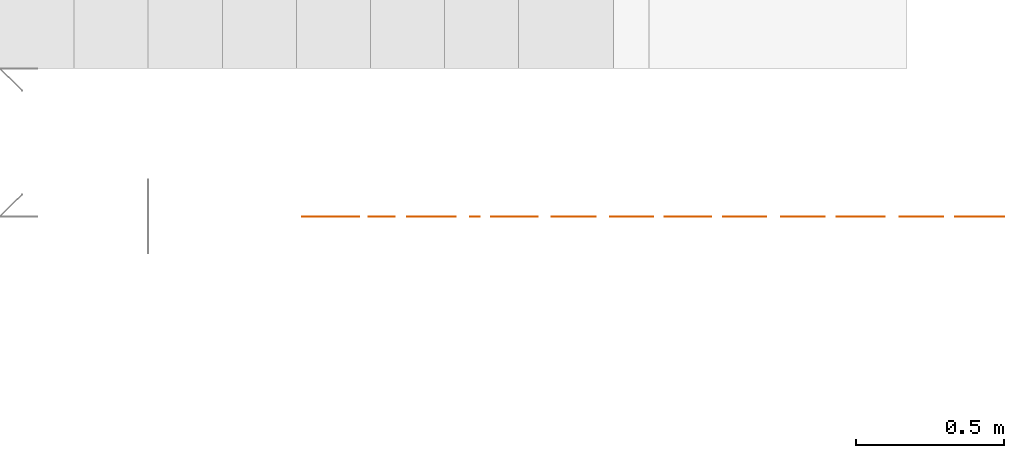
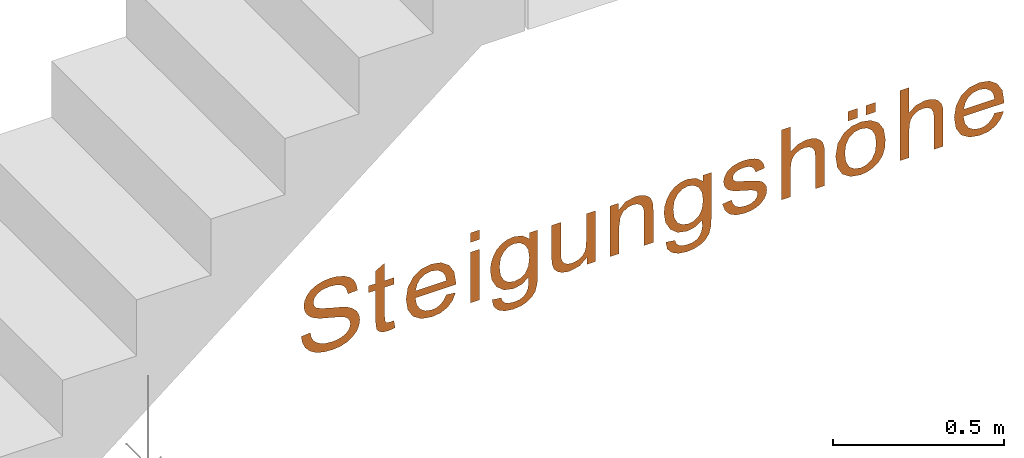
# One storey, part 5 of 5: 1 proxy, 1 element without a shape of its own.
"""IFC4 building model written with IfcOpenShell, lengths in metres."""

import ifcopenshell
import ifcopenshell.guid

model = None  # the IFC model being written
_history = None  # IfcOwnerHistory: only IFC2X3 demands one
_inside = {}  # id of a spatial element -> (the spatial element, [elements in it])
_under = {}  # id of a project, library or spatial element -> (it, [spatial elements below it])
_declared = {}  # id of a project -> (the project, [libraries it declares])
_typed = {}  # id of a type object -> (the type object, [elements of that type])
_made_of = {}  # id of a material, layer set ... -> (it, [elements and type objects made of it])


def new_model(schema):
    """Start an empty IFC model of exactly this schema.

    Asked for "IFC4X3", IfcOpenShell would pick the latest addendum, in which some entities
    have other attributes; the version numbers below select the first issue.
    IFC2X3 requires an IfcOwnerHistory on every rooted entity: one is made here for all.
    """
    global model, _history
    if schema == "IFC4X3":
        model = ifcopenshell.file(schema_version=(4, 3, 0, 0))
    else:
        model = ifcopenshell.file(schema=schema)
    _inside.clear()
    _under.clear()
    _declared.clear()
    _typed.clear()
    _made_of.clear()
    _history = None
    if model.schema == "IFC2X3":
        org = make("IfcOrganization", Name="unknown")
        user = make(
            "IfcPersonAndOrganization",
            ThePerson=make("IfcPerson", FamilyName="unknown"),
            TheOrganization=org,
        )
        app = make(
            "IfcApplication",
            ApplicationDeveloper=org,
            Version="unknown",
            ApplicationFullName="unknown",
            ApplicationIdentifier="unknown",
        )
        _history = make(
            "IfcOwnerHistory",
            OwningUser=user,
            OwningApplication=app,
            ChangeAction="ADDED",
            CreationDate=0,
        )
    return model


def make(cls, **values):
    """One entity of the class cls with the attributes given. An attribute that is None is left unset."""
    return model.create_entity(
        cls, **{name: value for name, value in values.items() if value is not None}
    )


def entity(cls, *values):
    """Any entity or typed value of the class cls, its attributes in the order of the schema. None: left unset."""
    e = model.create_entity(cls)
    for i, value in enumerate(values):
        if value is not None:
            e[i] = value
    return e


def rooted(cls, **values):
    """An entity with a GlobalId (a new one), such as an element, a storey or a relation."""
    return make(cls, GlobalId=ifcopenshell.guid.new(), OwnerHistory=_history, **values)


def si_unit(unit_type, name, prefix=None):
    """IfcSIUnit, for example si_unit("LENGTHUNIT", "METRE", prefix="MILLI")."""
    return make("IfcSIUnit", UnitType=unit_type, Prefix=prefix, Name=name)


def converted_unit(unit_type, name, factor, base, dimensions=None, offset=None):
    """IfcConversionBasedUnit, such as the inch: factor (a typed value) times the base unit."""
    return make(
        "IfcConversionBasedUnit"
        if offset is None
        else "IfcConversionBasedUnitWithOffset",
        ConversionOffset=offset,
        Dimensions=None
        if dimensions is None
        else entity("IfcDimensionalExponents", *dimensions),
        UnitType=unit_type,
        Name=name,
        ConversionFactor=make(
            "IfcMeasureWithUnit", ValueComponent=factor, UnitComponent=base
        ),
    )


def derived_unit(unit_type, elements):
    """IfcDerivedUnit: a product of units, each with its exponent."""
    return make(
        "IfcDerivedUnit",
        Elements=[
            make("IfcDerivedUnitElement", Unit=unit, Exponent=power)
            for unit, power in elements
        ],
        UnitType=unit_type,
    )


def assignment(units):
    """IfcUnitAssignment: the units of a project."""
    return None if units is None else make("IfcUnitAssignment", Units=units)


def point(xyz):
    """IfcCartesianPoint."""
    return None if xyz is None else make("IfcCartesianPoint", Coordinates=xyz)


def direction(xyz):
    """IfcDirection."""
    return None if xyz is None else make("IfcDirection", DirectionRatios=xyz)


def frame(location, z_axis=None, x_axis=None):
    """IfcAxis2Placement3D, a coordinate frame: its origin and axes. An axis left out is left unset."""
    return make(
        "IfcAxis2Placement3D",
        Location=point(location),
        Axis=direction(z_axis),
        RefDirection=direction(x_axis),
    )


def origin():
    """The frame at (0, 0, 0) with its axes left unset."""
    return frame((0.0, 0.0, 0.0))


def origin_with_axes():
    """The frame at (0, 0, 0) with the z axis (0, 0, 1) and the x axis (1, 0, 0) written out."""
    return frame((0.0, 0.0, 0.0), z_axis=(0.0, 0.0, 1.0), x_axis=(1.0, 0.0, 0.0))


def place(relative_to, where):
    """IfcLocalPlacement: puts the frame where relative to a parent placement (None: the world)."""
    return make(
        "IfcLocalPlacement", PlacementRelTo=relative_to, RelativePlacement=where
    )


def context(
    kind, dimensions, precision=None, world=None, true_north=None, identifier=None
):
    """IfcGeometricRepresentationContext, for example the 3D "Model" context."""
    return make(
        "IfcGeometricRepresentationContext",
        ContextIdentifier=identifier,
        ContextType=kind,
        CoordinateSpaceDimension=dimensions,
        Precision=precision,
        WorldCoordinateSystem=world,
        TrueNorth=true_north,
    )


def subcontext(parent, identifier, kind, view, scale=None):
    """IfcGeometricRepresentationSubContext, for example "Body" below "Model"."""
    return make(
        "IfcGeometricRepresentationSubContext",
        ContextIdentifier=identifier,
        ContextType=kind,
        ParentContext=parent,
        TargetScale=scale,
        TargetView=view,
    )


def project(units=None, contexts=None):
    """IfcProject with its units and contexts."""
    return rooted(
        "IfcProject",
        Name="project",
        RepresentationContexts=contexts,
        UnitsInContext=assignment(units),
    )


def spatial(cls, under=None, at=None, **own):
    """A site, building, storey or space (cls), placed at a placement, below another one or the project."""
    s = rooted(cls, ObjectPlacement=at, **own)
    if under is not None:
        _under.setdefault(under.id(), (under, []))[1].append(s)
    return s


def faces_of(points, faces, orient=None, outer=None):
    """IfcFace entities. A face is a list of loops; a loop is a list of indices into points, from 0.

    orient and outer hold one flag for each loop. By default every Orientation is true, the
    first loop of a face is its IfcFaceOuterBound and the others are IfcFaceBound.
    """
    made = []
    for i, loops in enumerate(faces):
        bounds = []
        for j, loop in enumerate(loops):
            is_outer = j == 0 if outer is None else outer[i][j]
            bounds.append(
                make(
                    "IfcFaceOuterBound" if is_outer else "IfcFaceBound",
                    Bound=make("IfcPolyLoop", Polygon=[points[k] for k in loop]),
                    Orientation=True if orient is None else orient[i][j],
                )
            )
        made.append(make("IfcFace", Bounds=bounds))
    return made


def open_shell(faces, orient=None, outer=None):
    """The faces of one IfcOpenShell. surface_model builds it on its shared points."""
    return ("IfcOpenShell", faces, orient, outer)


def surface_model(cls, points, shells):
    """IfcFaceBasedSurfaceModel or IfcShellBasedSurfaceModel (cls): surfaces that need not close."""
    shared = [point(p) for p in points]
    made = [make(c, CfsFaces=faces_of(shared, fs, o, b)) for c, fs, o, b in shells]
    if cls == "IfcFaceBasedSurfaceModel":
        return make(cls, FbsmFaces=made)
    return make(cls, SbsmBoundary=made)


def shape(context_of_items, identifier, shape_type, items):
    """IfcShapeRepresentation: the items that make up one representation, for example the "Body"."""
    return make(
        "IfcShapeRepresentation",
        ContextOfItems=context_of_items,
        RepresentationIdentifier=identifier,
        RepresentationType=shape_type,
        Items=items,
    )


def source(mapping_origin, context_of_items, identifier, shape_type, items):
    """IfcRepresentationMap: a shape defined once, which mapped items show again and again."""
    return make(
        "IfcRepresentationMap",
        MappingOrigin=mapping_origin,
        MappedRepresentation=shape(context_of_items, identifier, shape_type, items),
    )


def transform(
    local_origin,
    x_axis=None,
    y_axis=None,
    z_axis=None,
    scale=None,
    scale2=None,
    scale3=None,
    uniform=True,
):
    """IfcCartesianTransformationOperator3D, or its non-uniform kind. x_axis, y_axis, z_axis: its Axis1, 2, 3."""
    if uniform:
        return make(
            "IfcCartesianTransformationOperator3D",
            Axis1=direction(x_axis),
            Axis2=direction(y_axis),
            LocalOrigin=point(local_origin),
            Scale=scale,
            Axis3=direction(z_axis),
        )
    return make(
        "IfcCartesianTransformationOperator3DnonUniform",
        Axis1=direction(x_axis),
        Axis2=direction(y_axis),
        LocalOrigin=point(local_origin),
        Scale=scale,
        Axis3=direction(z_axis),
        Scale2=scale2,
        Scale3=scale3,
    )


def mapped(mapping_source, mapping_target):
    """IfcMappedItem: shows the shape of a source again, moved by a transform."""
    return make(
        "IfcMappedItem", MappingSource=mapping_source, MappingTarget=mapping_target
    )


def made_of(thing, what):
    """Note that an element or type object is made of a material, layer set ...; save() writes the relation."""
    if what is not None:
        _made_of.setdefault(what.id(), (what, []))[1].append(thing)
    return thing


def element(
    cls,
    number,
    at=None,
    inside=None,
    cuts=None,
    type_object=None,
    material=None,
    context=None,
    identifier="Body",
    shape_type=None,
    held_by="IfcProductDefinitionShape",
    body=None,
    shapes=None,
    **own,
):
    """One element of the class cls, such as IfcWall. Its Tag is "e" and its number.

    at: its placement. inside: the storey or other place that contains it. cuts: it is an
    opening in that element (IfcRelVoidsElement). A single representation is given by context,
    identifier, shape_type and body (its items); several are given by shapes. held_by: the class
    of the entity that holds the representations. save() writes the other relations.
    """
    e = rooted(cls, Tag="e%d" % number, ObjectPlacement=at, **own)
    if body is not None:
        shapes = [shape(context, identifier, shape_type, body)]
    if shapes is not None:
        e.Representation = make(held_by, Representations=shapes)
    if inside is not None:
        _inside.setdefault(inside.id(), (inside, []))[1].append(e)
    if cuts is not None:
        rooted(
            "IfcRelVoidsElement", RelatingBuildingElement=cuts, RelatedOpeningElement=e
        )
    if type_object is not None:
        _typed.setdefault(type_object.id(), (type_object, []))[1].append(e)
    return made_of(e, material)


def aggregate(whole, parts):
    """IfcRelAggregates: a whole, such as a stair, and the parts it consists of."""
    return rooted("IfcRelAggregates", RelatingObject=whole, RelatedObjects=parts)


def save(model, path):
    """Write the relations noted so far, then the file.

    IfcRelAggregates (storeys below a building ...), IfcRelContainedInSpatialStructure (elements
    in a storey), IfcRelDefinesByType, IfcRelAssociatesMaterial and IfcRelDeclares: one each for
    every whole, place, type object, material and project.
    """
    for whole, parts in _under.values():
        aggregate(whole, parts)
    for where, things in _inside.values():
        rooted(
            "IfcRelContainedInSpatialStructure",
            RelatedElements=things,
            RelatingStructure=where,
        )
    for kind, things in _typed.values():
        rooted("IfcRelDefinesByType", RelatedObjects=things, RelatingType=kind)
    for what, things in _made_of.values():
        rooted("IfcRelAssociatesMaterial", RelatedObjects=things, RelatingMaterial=what)
    for by, libraries in _declared.values():
        rooted("IfcRelDeclares", RelatingContext=by, RelatedDefinitions=libraries)
    model.write(path)


model = new_model("IFC4")

# Units and contexts
model_context = context("Model", 3, precision=1e-05, world=origin())
body_context = subcontext(model_context, "Body", "Model", "MODEL_VIEW")
ifc_project = project(units=[si_unit("LENGTHUNIT", "METRE"), si_unit("AREAUNIT", "SQUARE_METRE"), si_unit("VOLUMEUNIT", "CUBIC_METRE"), si_unit("MASSUNIT", "GRAM", prefix="KILO"), converted_unit("PLANEANGLEUNIT", "DEGREE", entity("IfcPlaneAngleMeasure", 0.0174532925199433), si_unit("PLANEANGLEUNIT", "RADIAN"), dimensions=[0, 0, 0, 0, 0, 0, 0]), derived_unit("THERMALTRANSMITTANCEUNIT", [(si_unit("POWERUNIT", "WATT"), 1), (si_unit("THERMODYNAMICTEMPERATUREUNIT", "KELVIN"), -1), (si_unit("LENGTHUNIT", "METRE"), -2)]), derived_unit("VOLUMETRICFLOWRATEUNIT", [(si_unit("LENGTHUNIT", "METRE"), 3), (converted_unit("TIMEUNIT", "hour", entity("IfcTimeMeasure", 3600.0), si_unit("TIMEUNIT", "SECOND"), dimensions=[0, 0, 1, 0, 0, 0, 0]), -1), (si_unit("LENGTHUNIT", "METRE"), -1)])], contexts=[model_context])

# Site, building, storey
site_placement = place(None, origin())
site = spatial("IfcSite", under=ifc_project, at=site_placement, Name="Liegenschaft", CompositionType="ELEMENT")
building_placement = place(site_placement, origin())
building = spatial("IfcBuilding", under=site, at=building_placement, Name="Gebäude", CompositionType="ELEMENT")
storey_placement = place(building_placement, origin())
storey = spatial("IfcBuildingStorey", under=building, at=storey_placement, Name="Geschoss 02", CompositionType="ELEMENT", Elevation=0.0)

# Assembly, proxy
assembly_placement = place(storey_placement, origin())
assembly = element("IfcElementAssembly", 1, at=assembly_placement, inside=storey, Name="SpatialDim_Group", PredefinedType="NOTDEFINED")
shared_shape = source(origin_with_axes(), body_context, "Body", "SurfaceModel", [
    surface_model("IfcShellBasedSurfaceModel", [(0.378675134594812, 2.371, 0.0), (0.354675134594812, 2.366625, 0.0), (0.333675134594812, 2.357, 0.0), (0.316550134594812, 2.341375, 0.0), (0.304675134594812, 2.322, 0.0), (0.297050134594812, 2.29575, 0.0), (0.294675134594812, 2.265, 0.0), (0.297425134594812, 2.2395, 0.0), (0.304675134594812, 2.217, 0.0), (0.316675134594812, 2.19825, 0.0), (0.331675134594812, 2.184, 0.0), (0.350300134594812, 2.1755, 0.0), (0.369675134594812, 2.173, 0.0), (0.388675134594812, 2.175875, 0.0), (0.404675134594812, 2.184, 0.0), (0.418675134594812, 2.197375, 0.0), (0.429675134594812, 2.216, 0.0), (0.437300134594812, 2.2375, 0.0), (0.445675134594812, 2.271, 0.0), (0.455425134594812, 2.303375, 0.0), (0.463675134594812, 2.32, 0.0), (0.473925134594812, 2.327625, 0.0), (0.485675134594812, 2.33, 0.0), (0.500675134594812, 2.326375, 0.0), (0.512675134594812, 2.316, 0.0), (0.521175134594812, 2.298625, 0.0), (0.523675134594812, 2.273, 0.0), (0.520675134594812, 2.248125, 0.0), (0.511675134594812, 2.23, 0.0), (0.496675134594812, 2.2185, 0.0), (0.475675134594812, 2.213, 0.0), (0.477675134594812, 2.181, 0.0), (0.498800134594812, 2.18475, 0.0), (0.517675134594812, 2.193, 0.0), (0.532925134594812, 2.20725, 0.0), (0.543675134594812, 2.226, 0.0), (0.550425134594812, 2.2485, 0.0), (0.552675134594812, 2.274, 0.0), (0.550425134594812, 2.298875, 0.0), (0.543675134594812, 2.32, 0.0), (0.533050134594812, 2.3385, 0.0), (0.518675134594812, 2.351, 0.0), (0.501550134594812, 2.3595, 0.0), (0.483675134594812, 2.362, 0.0), (0.467050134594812, 2.35975, 0.0), (0.452675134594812, 2.353, 0.0), (0.439675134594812, 2.341875, 0.0), (0.429675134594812, 2.327, 0.0), (0.421300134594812, 2.3075, 0.0), (0.413675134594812, 2.279, 0.0), (0.406175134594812, 2.250625, 0.0), (0.401675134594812, 2.235, 0.0), (0.394925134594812, 2.220875, 0.0), (0.386675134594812, 2.212, 0.0), (0.377050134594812, 2.206625, 0.0), (0.366675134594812, 2.205, 0.0), (0.354925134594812, 2.207, 0.0), (0.344675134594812, 2.212, 0.0), (0.335675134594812, 2.221, 0.0), (0.329675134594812, 2.233, 0.0), (0.325175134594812, 2.24925, 0.0), (0.323675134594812, 2.267, 0.0), (0.325675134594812, 2.287125, 0.0), (0.330675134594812, 2.305, 0.0), (0.339925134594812, 2.320125, 0.0), (0.350675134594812, 2.33, 0.0), (0.364675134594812, 2.336875, 0.0), (0.381675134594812, 2.34, 0.0)], [open_shell([[[0, 1, 2, 3, 4, 5, 6, 7, 8, 9, 10, 11, 12, 13, 14, 15, 16, 17, 18, 19, 20, 21, 22, 23, 24, 25, 26, 27, 28, 29, 30, 31, 32, 33, 34, 35, 36, 37, 38, 39, 40, 41, 42, 43, 44, 45, 46, 47, 48, 49, 50, 51, 52, 53, 54, 55, 56, 57, 58, 59, 60, 61, 62, 63, 64, 65, 66, 67]]], orient=[[False]])]),
    surface_model("IfcShellBasedSurfaceModel", [(0.326675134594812, 2.058, 0.0), (0.325800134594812, 2.06575, 0.0), (0.325675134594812, 2.072, 0.0), (0.326300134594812, 2.07775, 0.0), (0.327675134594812, 2.082, 0.0), (0.330675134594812, 2.085625, 0.0), (0.333675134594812, 2.087, 0.0), (0.340300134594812, 2.08875, 0.0), (0.350675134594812, 2.089, 0.0), (0.455675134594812, 2.089, 0.0), (0.455675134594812, 2.058, 0.0), (0.479675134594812, 2.058, 0.0), (0.479675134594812, 2.089, 0.0), (0.542675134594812, 2.089, 0.0), (0.524675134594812, 2.12, 0.0), (0.479675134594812, 2.12, 0.0), (0.479675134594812, 2.143, 0.0), (0.455675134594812, 2.143, 0.0), (0.455675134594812, 2.12, 0.0), (0.351675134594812, 2.12, 0.0), (0.329175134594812, 2.11875, 0.0), (0.315675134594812, 2.116, 0.0), (0.307925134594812, 2.110625, 0.0), (0.301675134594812, 2.103, 0.0), (0.297675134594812, 2.091875, 0.0), (0.296675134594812, 2.077, 0.0), (0.297425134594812, 2.065875, 0.0), (0.299675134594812, 2.054, 0.0)], [open_shell([[[0, 1, 2, 3, 4, 5, 6, 7, 8, 9, 10, 11, 12, 13, 14, 15, 16, 17, 18, 19, 20, 21, 22, 23, 24, 25, 26, 27]]], orient=[[False]])]),
    surface_model("IfcShellBasedSurfaceModel", [(0.356675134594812, 1.881, 0.0), (0.340050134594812, 1.889875, 0.0), (0.328675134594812, 1.901, 0.0), (0.321925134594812, 1.914375, 0.0), (0.319675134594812, 1.93, 0.0), (0.323925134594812, 1.95175, 0.0), (0.335675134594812, 1.969, 0.0), (0.355300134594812, 1.980875, 0.0), (0.381675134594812, 1.986, 0.0), (0.381675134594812, 1.849, 0.0), (0.386425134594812, 1.849, 0.0), (0.389675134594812, 1.849, 0.0), (0.429425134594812, 1.854875, 0.0), (0.458675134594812, 1.872, 0.0), (0.477550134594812, 1.899, 0.0), (0.483675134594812, 1.932, 0.0), (0.477175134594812, 1.966625, 0.0), (0.458675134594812, 1.993, 0.0), (0.428050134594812, 2.011, 0.0), (0.387675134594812, 2.017, 0.0), (0.347925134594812, 2.011125, 0.0), (0.318675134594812, 1.994, 0.0), (0.300675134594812, 1.96575, 0.0), (0.294675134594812, 1.93, 0.0), (0.298425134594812, 1.900625, 0.0), (0.309675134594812, 1.878, 0.0), (0.328175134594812, 1.860625, 0.0), (0.352675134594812, 1.85, 0.0), (0.426300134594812, 1.88475, 0.0), (0.406675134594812, 1.881, 0.0), (0.406675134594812, 1.985, 0.0), (0.428300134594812, 1.979625, 0.0), (0.444675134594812, 1.969, 0.0), (0.455425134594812, 1.952, 0.0), (0.458675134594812, 1.932, 0.0), (0.454175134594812, 1.91025, 0.0), (0.440675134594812, 1.893, 0.0)], [open_shell([[[0, 1, 2, 3, 4, 5, 6, 7, 8, 9, 10, 11, 12, 13, 14, 15, 16, 17, 18, 19, 20, 21, 22, 23, 24, 25, 26, 27], [28, 29, 30, 31, 32, 33, 34, 35, 36]]], orient=[[False, False]])]),
    surface_model("IfcShellBasedSurfaceModel", [(0.298675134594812, 1.8, 0.0), (0.298675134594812, 1.769, 0.0), (0.479675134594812, 1.769, 0.0), (0.479675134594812, 1.8, 0.0), (0.514675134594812, 1.8, 0.0), (0.514675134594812, 1.769, 0.0), (0.548675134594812, 1.769, 0.0), (0.548675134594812, 1.8, 0.0)], [open_shell([[[0, 1, 2, 3]], [[4, 5, 6, 7]]], orient=[[False], [False]])]),
    surface_model("IfcShellBasedSurfaceModel", [(0.284675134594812, 1.727, 0.0), (0.258550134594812, 1.721875, 0.0), (0.240675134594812, 1.707, 0.0), (0.229425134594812, 1.683625, 0.0), (0.225675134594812, 1.655, 0.0), (0.228425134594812, 1.629375, 0.0), (0.235675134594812, 1.609, 0.0), (0.247800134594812, 1.592375, 0.0), (0.263675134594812, 1.581, 0.0), (0.287675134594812, 1.57475, 0.0), (0.323675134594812, 1.573, 0.0), (0.479675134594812, 1.573, 0.0), (0.479675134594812, 1.601, 0.0), (0.457675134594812, 1.601, 0.0), (0.477425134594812, 1.624875, 0.0), (0.483675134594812, 1.654, 0.0), (0.480675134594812, 1.6765, 0.0), (0.471675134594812, 1.696, 0.0), (0.456925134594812, 1.71175, 0.0), (0.437675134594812, 1.723, 0.0), (0.414425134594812, 1.730625, 0.0), (0.389675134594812, 1.733, 0.0), (0.355050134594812, 1.72775, 0.0), (0.325675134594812, 1.712, 0.0), (0.305425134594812, 1.687125, 0.0), (0.298675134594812, 1.654, 0.0), (0.304550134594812, 1.626375, 0.0), (0.321675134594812, 1.604, 0.0), (0.296925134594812, 1.603875, 0.0), (0.282675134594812, 1.606, 0.0), (0.269175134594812, 1.612, 0.0), (0.258675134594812, 1.621, 0.0), (0.252425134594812, 1.63525, 0.0), (0.250675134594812, 1.654, 0.0), (0.252925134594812, 1.672125, 0.0), (0.259675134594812, 1.685, 0.0), (0.268675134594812, 1.692375, 0.0), (0.280675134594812, 1.696, 0.0), (0.361675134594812, 1.69825, 0.0), (0.392675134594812, 1.702, 0.0), (0.421675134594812, 1.69825, 0.0), (0.441675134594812, 1.687, 0.0), (0.454675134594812, 1.671, 0.0), (0.458675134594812, 1.652, 0.0), (0.454300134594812, 1.6325, 0.0), (0.441675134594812, 1.616, 0.0), (0.420425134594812, 1.60475, 0.0), (0.391675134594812, 1.601, 0.0), (0.360800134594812, 1.604625, 0.0), (0.339675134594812, 1.615, 0.0), (0.327550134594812, 1.6315, 0.0), (0.323675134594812, 1.651, 0.0), (0.327925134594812, 1.67125, 0.0), (0.339675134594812, 1.687, 0.0)], [open_shell([[[0, 1, 2, 3, 4, 5, 6, 7, 8, 9, 10, 11, 12, 13, 14, 15, 16, 17, 18, 19, 20, 21, 22, 23, 24, 25, 26, 27, 28, 29, 30, 31, 32, 33, 34, 35, 36, 37], [38, 39, 40, 41, 42, 43, 44, 45, 46, 47, 48, 49, 50, 51, 52, 53]]], orient=[[False, False]])]),
    surface_model("IfcShellBasedSurfaceModel", [(0.298675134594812, 1.406, 0.0), (0.298675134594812, 1.378, 0.0), (0.479675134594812, 1.378, 0.0), (0.479675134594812, 1.409, 0.0), (0.382675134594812, 1.409, 0.0), (0.361675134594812, 1.410375, 0.0), (0.346675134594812, 1.414, 0.0), (0.335675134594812, 1.421, 0.0), (0.327675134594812, 1.431, 0.0), (0.322300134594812, 1.443625, 0.0), (0.320675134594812, 1.457, 0.0), (0.322675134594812, 1.4705, 0.0), (0.327675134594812, 1.481, 0.0), (0.336050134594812, 1.4885, 0.0), (0.346675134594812, 1.493, 0.0), (0.358925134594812, 1.49475, 0.0), (0.378675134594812, 1.495, 0.0), (0.479675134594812, 1.495, 0.0), (0.479675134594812, 1.526, 0.0), (0.367675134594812, 1.526, 0.0), (0.350175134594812, 1.525375, 0.0), (0.338675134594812, 1.524, 0.0), (0.326550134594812, 1.52025, 0.0), (0.316675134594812, 1.515, 0.0), (0.307550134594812, 1.506, 0.0), (0.300675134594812, 1.494, 0.0), (0.296175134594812, 1.479, 0.0), (0.294675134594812, 1.464, 0.0), (0.302175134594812, 1.430875, 0.0), (0.324675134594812, 1.406, 0.0)], [open_shell([[[0, 1, 2, 3, 4, 5, 6, 7, 8, 9, 10, 11, 12, 13, 14, 15, 16, 17, 18, 19, 20, 21, 22, 23, 24, 25, 26, 27, 28, 29]]], orient=[[False]])]),
    surface_model("IfcShellBasedSurfaceModel", [(0.298675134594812, 1.329, 0.0), (0.298675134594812, 1.298, 0.0), (0.397675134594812, 1.298, 0.0), (0.426800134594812, 1.294375, 0.0), (0.444675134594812, 1.284, 0.0), (0.453675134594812, 1.26825, 0.0), (0.456675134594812, 1.251, 0.0), (0.455175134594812, 1.23975, 0.0), (0.450675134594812, 1.23, 0.0), (0.444425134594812, 1.2225, 0.0), (0.436675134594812, 1.218, 0.0), (0.424550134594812, 1.214875, 0.0), (0.408675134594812, 1.214, 0.0), (0.298675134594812, 1.214, 0.0), (0.298675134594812, 1.183, 0.0), (0.409675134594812, 1.183, 0.0), (0.428425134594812, 1.183625, 0.0), (0.439675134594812, 1.185, 0.0), (0.452300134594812, 1.18875, 0.0), (0.462675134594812, 1.194, 0.0), (0.470925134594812, 1.202875, 0.0), (0.477675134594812, 1.214, 0.0), (0.482175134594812, 1.229, 0.0), (0.483675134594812, 1.244, 0.0), (0.476175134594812, 1.277, 0.0), (0.453675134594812, 1.301, 0.0), (0.479675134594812, 1.301, 0.0), (0.479675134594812, 1.329, 0.0)], [open_shell([[[0, 1, 2, 3, 4, 5, 6, 7, 8, 9, 10, 11, 12, 13, 14, 15, 16, 17, 18, 19, 20, 21, 22, 23, 24, 25, 26, 27]]], orient=[[False]])]),
    surface_model("IfcShellBasedSurfaceModel", [(0.284675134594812, 1.141, 0.0), (0.258550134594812, 1.135875, 0.0), (0.240675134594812, 1.121, 0.0), (0.229425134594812, 1.097625, 0.0), (0.225675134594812, 1.069, 0.0), (0.228425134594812, 1.043375, 0.0), (0.235675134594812, 1.023, 0.0), (0.247800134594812, 1.006375, 0.0), (0.263675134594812, 0.995, 0.0), (0.287675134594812, 0.98875, 0.0), (0.323675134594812, 0.987, 0.0), (0.479675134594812, 0.987, 0.0), (0.479675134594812, 1.015, 0.0), (0.457675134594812, 1.015, 0.0), (0.477425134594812, 1.038875, 0.0), (0.483675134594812, 1.068, 0.0), (0.480675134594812, 1.0905, 0.0), (0.471675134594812, 1.11, 0.0), (0.456925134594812, 1.12575, 0.0), (0.437675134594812, 1.137, 0.0), (0.414425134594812, 1.144625, 0.0), (0.389675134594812, 1.147, 0.0), (0.355050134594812, 1.14175, 0.0), (0.325675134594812, 1.126, 0.0), (0.305425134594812, 1.101125, 0.0), (0.298675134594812, 1.068, 0.0), (0.304550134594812, 1.040375, 0.0), (0.321675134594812, 1.018, 0.0), (0.296925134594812, 1.017875, 0.0), (0.282675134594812, 1.02, 0.0), (0.269175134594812, 1.026, 0.0), (0.258675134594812, 1.035, 0.0), (0.252425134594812, 1.04925, 0.0), (0.250675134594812, 1.068, 0.0), (0.252925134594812, 1.086125, 0.0), (0.259675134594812, 1.099, 0.0), (0.268675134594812, 1.106375, 0.0), (0.280675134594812, 1.11, 0.0), (0.361675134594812, 1.11225, 0.0), (0.392675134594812, 1.116, 0.0), (0.421675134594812, 1.11225, 0.0), (0.441675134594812, 1.101, 0.0), (0.454675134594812, 1.085, 0.0), (0.458675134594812, 1.066, 0.0), (0.454300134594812, 1.0465, 0.0), (0.441675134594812, 1.03, 0.0), (0.420425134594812, 1.01875, 0.0), (0.391675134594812, 1.015, 0.0), (0.360800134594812, 1.018625, 0.0), (0.339675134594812, 1.029, 0.0), (0.327550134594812, 1.0455, 0.0), (0.323675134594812, 1.065, 0.0), (0.327925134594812, 1.08525, 0.0), (0.339675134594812, 1.101, 0.0)], [open_shell([[[0, 1, 2, 3, 4, 5, 6, 7, 8, 9, 10, 11, 12, 13, 14, 15, 16, 17, 18, 19, 20, 21, 22, 23, 24, 25, 26, 27, 28, 29, 30, 31, 32, 33, 34, 35, 36, 37], [38, 39, 40, 41, 42, 43, 44, 45, 46, 47, 48, 49, 50, 51, 52, 53]]], orient=[[False, False]])]),
    surface_model("IfcShellBasedSurfaceModel", [(0.353675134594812, 0.95, 0.0), (0.327925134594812, 0.941, 0.0), (0.309675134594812, 0.926, 0.0), (0.298425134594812, 0.903625, 0.0), (0.294675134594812, 0.873, 0.0), (0.296675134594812, 0.852875, 0.0), (0.301675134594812, 0.835, 0.0), (0.311425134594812, 0.81975, 0.0), (0.322675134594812, 0.809, 0.0), (0.337175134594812, 0.80225, 0.0), (0.351675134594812, 0.8, 0.0), (0.366550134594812, 0.802125, 0.0), (0.377675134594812, 0.808, 0.0), (0.387550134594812, 0.816875, 0.0), (0.393675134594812, 0.828, 0.0), (0.400425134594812, 0.846, 0.0), (0.408675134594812, 0.873, 0.0), (0.413800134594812, 0.891, 0.0), (0.416675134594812, 0.9, 0.0), (0.420300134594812, 0.907, 0.0), (0.424675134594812, 0.911, 0.0), (0.430175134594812, 0.914125, 0.0), (0.435675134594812, 0.915, 0.0), (0.444425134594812, 0.91275, 0.0), (0.451675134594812, 0.906, 0.0), (0.457050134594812, 0.894125, 0.0), (0.458675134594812, 0.877, 0.0), (0.456550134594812, 0.86125, 0.0), (0.450675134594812, 0.85, 0.0), (0.440800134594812, 0.84175, 0.0), (0.428675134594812, 0.838, 0.0), (0.432675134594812, 0.807, 0.0), (0.448925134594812, 0.811375, 0.0), (0.460675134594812, 0.818, 0.0), (0.470675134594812, 0.827625, 0.0), (0.477675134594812, 0.841, 0.0), (0.482175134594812, 0.85925, 0.0), (0.483675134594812, 0.879, 0.0), (0.482425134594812, 0.89325, 0.0), (0.479675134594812, 0.906, 0.0), (0.475925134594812, 0.917, 0.0), (0.470675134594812, 0.925, 0.0), (0.463300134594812, 0.934, 0.0), (0.453675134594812, 0.94, 0.0), (0.443050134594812, 0.9445, 0.0), (0.431675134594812, 0.946, 0.0), (0.418925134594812, 0.944, 0.0), (0.407675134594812, 0.939, 0.0), (0.397675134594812, 0.930125, 0.0), (0.390675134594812, 0.919, 0.0), (0.383175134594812, 0.9, 0.0), (0.375675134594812, 0.872, 0.0), (0.369050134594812, 0.852, 0.0), (0.364675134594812, 0.841, 0.0), (0.357425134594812, 0.833375, 0.0), (0.348675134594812, 0.831, 0.0), (0.337550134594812, 0.83375, 0.0), (0.328675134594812, 0.841, 0.0), (0.321925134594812, 0.853875, 0.0), (0.319675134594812, 0.872, 0.0), (0.322425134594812, 0.89075, 0.0), (0.329675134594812, 0.905, 0.0), (0.341800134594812, 0.91425, 0.0), (0.357675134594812, 0.919, 0.0)], [open_shell([[[0, 1, 2, 3, 4, 5, 6, 7, 8, 9, 10, 11, 12, 13, 14, 15, 16, 17, 18, 19, 20, 21, 22, 23, 24, 25, 26, 27, 28, 29, 30, 31, 32, 33, 34, 35, 36, 37, 38, 39, 40, 41, 42, 43, 44, 45, 46, 47, 48, 49, 50, 51, 52, 53, 54, 55, 56, 57, 58, 59, 60, 61, 62, 63]]], orient=[[False]])]),
    surface_model("IfcShellBasedSurfaceModel", [(0.298675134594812, 0.751, 0.0), (0.298675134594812, 0.72, 0.0), (0.397675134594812, 0.72, 0.0), (0.417300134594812, 0.718625, 0.0), (0.431675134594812, 0.715, 0.0), (0.442675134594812, 0.708, 0.0), (0.450675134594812, 0.698, 0.0), (0.456050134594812, 0.685875, 0.0), (0.457675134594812, 0.673, 0.0), (0.454925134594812, 0.65725, 0.0), (0.447675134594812, 0.646, 0.0), (0.433300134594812, 0.638375, 0.0), (0.413675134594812, 0.636, 0.0), (0.298675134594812, 0.636, 0.0), (0.298675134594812, 0.605, 0.0), (0.413675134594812, 0.605, 0.0), (0.437050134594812, 0.6065, 0.0), (0.453675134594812, 0.611, 0.0), (0.466550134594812, 0.62, 0.0), (0.475675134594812, 0.632, 0.0), (0.481925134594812, 0.648375, 0.0), (0.483675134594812, 0.667, 0.0), (0.477675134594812, 0.6965, 0.0), (0.459675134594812, 0.72, 0.0), (0.548675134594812, 0.72, 0.0), (0.548675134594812, 0.751, 0.0)], [open_shell([[[0, 1, 2, 3, 4, 5, 6, 7, 8, 9, 10, 11, 12, 13, 14, 15, 16, 17, 18, 19, 20, 21, 22, 23, 24, 25]]], orient=[[False]])]),
    surface_model("IfcShellBasedSurfaceModel", [(0.501675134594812, 0.465, 0.0), (0.501675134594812, 0.433, 0.0), (0.535675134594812, 0.433, 0.0), (0.535675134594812, 0.465, 0.0), (0.501675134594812, 0.527, 0.0), (0.501675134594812, 0.495, 0.0), (0.535675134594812, 0.495, 0.0), (0.535675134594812, 0.527, 0.0), (0.348550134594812, 0.562125, 0.0), (0.318675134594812, 0.545, 0.0), (0.300675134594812, 0.517875, 0.0), (0.294675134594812, 0.484, 0.0), (0.297550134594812, 0.461, 0.0), (0.305675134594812, 0.441, 0.0), (0.319300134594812, 0.422875, 0.0), (0.336675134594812, 0.41, 0.0), (0.360800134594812, 0.402375, 0.0), (0.391675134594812, 0.4, 0.0), (0.430550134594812, 0.405875, 0.0), (0.459675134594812, 0.423, 0.0), (0.477675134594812, 0.4505, 0.0), (0.483675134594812, 0.484, 0.0), (0.478550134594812, 0.514625, 0.0), (0.463675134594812, 0.54, 0.0), (0.433050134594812, 0.561125, 0.0), (0.389675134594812, 0.568, 0.0), (0.359050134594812, 0.53325, 0.0), (0.389675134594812, 0.537, 0.0), (0.419800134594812, 0.53325, 0.0), (0.441675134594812, 0.522, 0.0), (0.454675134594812, 0.504875, 0.0), (0.458675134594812, 0.484, 0.0), (0.454300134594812, 0.46275, 0.0), (0.441675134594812, 0.446, 0.0), (0.419925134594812, 0.43475, 0.0), (0.390675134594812, 0.431, 0.0), (0.359175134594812, 0.43475, 0.0), (0.336675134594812, 0.446, 0.0), (0.323675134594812, 0.463125, 0.0), (0.319675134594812, 0.484, 0.0), (0.324050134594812, 0.50525, 0.0), (0.336675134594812, 0.522, 0.0)], [open_shell([[[0, 1, 2, 3]], [[4, 5, 6, 7]], [[8, 9, 10, 11, 12, 13, 14, 15, 16, 17, 18, 19, 20, 21, 22, 23, 24, 25], [26, 27, 28, 29, 30, 31, 32, 33, 34, 35, 36, 37, 38, 39, 40, 41]]], orient=[[False], [False], [False, False]])]),
    surface_model("IfcShellBasedSurfaceModel", [(0.298675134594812, 0.351, 0.0), (0.298675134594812, 0.32, 0.0), (0.397675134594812, 0.32, 0.0), (0.417300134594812, 0.318625, 0.0), (0.431675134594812, 0.315, 0.0), (0.442675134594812, 0.308, 0.0), (0.450675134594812, 0.298, 0.0), (0.456050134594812, 0.285875, 0.0), (0.457675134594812, 0.273, 0.0), (0.454925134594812, 0.25725, 0.0), (0.447675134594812, 0.246, 0.0), (0.433300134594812, 0.238375, 0.0), (0.413675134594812, 0.236, 0.0), (0.298675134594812, 0.236, 0.0), (0.298675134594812, 0.205, 0.0), (0.413675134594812, 0.205, 0.0), (0.437050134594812, 0.2065, 0.0), (0.453675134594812, 0.211, 0.0), (0.466550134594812, 0.22, 0.0), (0.475675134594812, 0.232, 0.0), (0.481925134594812, 0.248375, 0.0), (0.483675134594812, 0.267, 0.0), (0.477675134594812, 0.2965, 0.0), (0.459675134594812, 0.32, 0.0), (0.548675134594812, 0.32, 0.0), (0.548675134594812, 0.351, 0.0)], [open_shell([[[0, 1, 2, 3, 4, 5, 6, 7, 8, 9, 10, 11, 12, 13, 14, 15, 16, 17, 18, 19, 20, 21, 22, 23, 24, 25]]], orient=[[False]])]),
    surface_model("IfcShellBasedSurfaceModel", [(0.356675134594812, 0.032, 0.0), (0.340050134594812, 0.040875, 0.0), (0.328675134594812, 0.052, 0.0), (0.321925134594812, 0.065375, 0.0), (0.319675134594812, 0.081, 0.0), (0.323925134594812, 0.10275, 0.0), (0.335675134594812, 0.12, 0.0), (0.355300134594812, 0.131875, 0.0), (0.381675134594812, 0.137, 0.0), (0.381675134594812, 0.0, 0.0), (0.386425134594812, 0.0, 0.0), (0.389675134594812, 0.0, 0.0), (0.429425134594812, 0.005875, 0.0), (0.458675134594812, 0.023, 0.0), (0.477550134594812, 0.05, 0.0), (0.483675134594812, 0.083, 0.0), (0.477175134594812, 0.117625, 0.0), (0.458675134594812, 0.144, 0.0), (0.428050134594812, 0.162, 0.0), (0.387675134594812, 0.168, 0.0), (0.347925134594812, 0.162125, 0.0), (0.318675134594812, 0.145, 0.0), (0.300675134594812, 0.11675, 0.0), (0.294675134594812, 0.081, 0.0), (0.298425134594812, 0.051625, 0.0), (0.309675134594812, 0.029, 0.0), (0.328175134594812, 0.011625, 0.0), (0.352675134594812, 0.001, 0.0), (0.426300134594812, 0.03575, 0.0), (0.406675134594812, 0.032, 0.0), (0.406675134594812, 0.136, 0.0), (0.428300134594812, 0.130625, 0.0), (0.444675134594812, 0.12, 0.0), (0.455425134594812, 0.103, 0.0), (0.458675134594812, 0.083, 0.0), (0.454175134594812, 0.06125, 0.0), (0.440675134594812, 0.044, 0.0)], [open_shell([[[0, 1, 2, 3, 4, 5, 6, 7, 8, 9, 10, 11, 12, 13, 14, 15, 16, 17, 18, 19, 20, 21, 22, 23, 24, 25, 26, 27], [28, 29, 30, 31, 32, 33, 34, 35, 36]]], orient=[[False, False]])]),
])
proxy_placement = place(assembly_placement, frame((125.453730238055, -1.55532871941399, 2.1), z_axis=(-1.22464679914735e-16, -1.0, 1.49975978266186e-32), x_axis=(1.22464679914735e-16, 0.0, 1.0)))
proxy = element("IfcBuildingElementProxy", 2, at=proxy_placement, Name="macro", context=body_context, shape_type="MappedRepresentation", body=[
    mapped(shared_shape, transform((0.0, 0.0, 0.0), x_axis=(1.0, 0.0, 0.0), y_axis=(0.0, 1.0, 0.0), z_axis=(0.0, 0.0, 1.0), scale=1.0)),
])
aggregate(assembly, [proxy])

save(model, "model.ifc")
